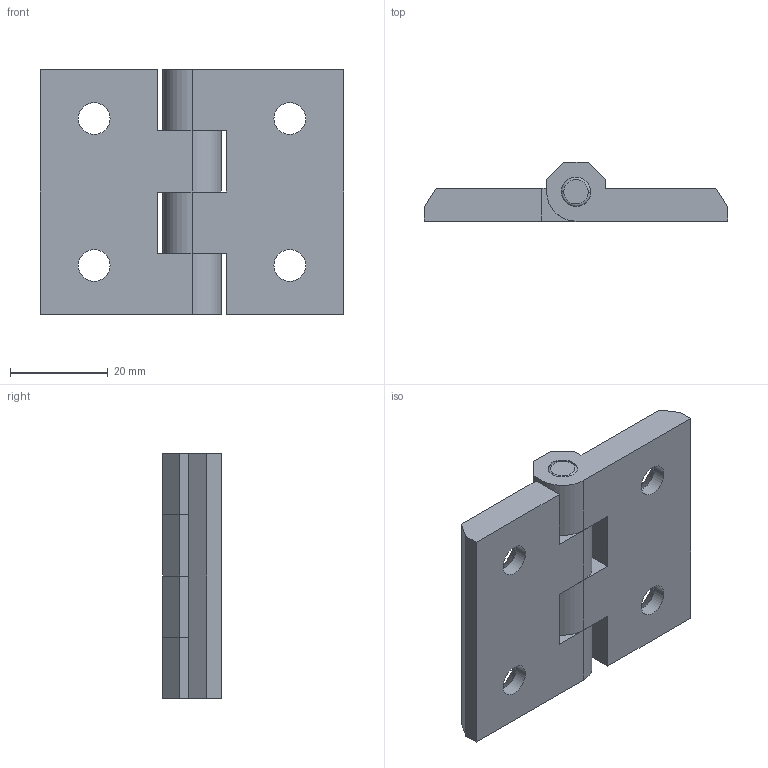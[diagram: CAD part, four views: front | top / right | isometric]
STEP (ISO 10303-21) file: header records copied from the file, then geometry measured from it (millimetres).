
FILE_DESCRIPTION (( 'STEP AP203' ), '1' );
FILE_NAME ('211-CE-HGAL-40.STEP', '2015-07-09T09:26:56', ( '' ), ( '' ), 'SwSTEP 2.0', 'SolidWorks 2013', '' );
FILE_SCHEMA (( 'CONFIG_CONTROL_DESIGN' ));
Length unit declared in the file: millimetre
Products named in the file (1): 211-CE-HGAL-40
Bounding box: 62 x 12 x 50 mm (x, y, z)
Surface area: 9622.2 mm2 (no closed solid volume)
Topology: 0 solids, 4 shells, 72 faces, 198 edges, 132 vertices
Faces by surface type: plane 44, cylinder 16, cone 8, torus 4
Entity records: 2394 total; most frequent: DIRECTION 404, CARTESIAN_POINT 403, ORIENTED_EDGE 384, EDGE_CURVE 198, LINE 138, VECTOR 138, AXIS2_PLACEMENT_3D 133, VERTEX_POINT 132
